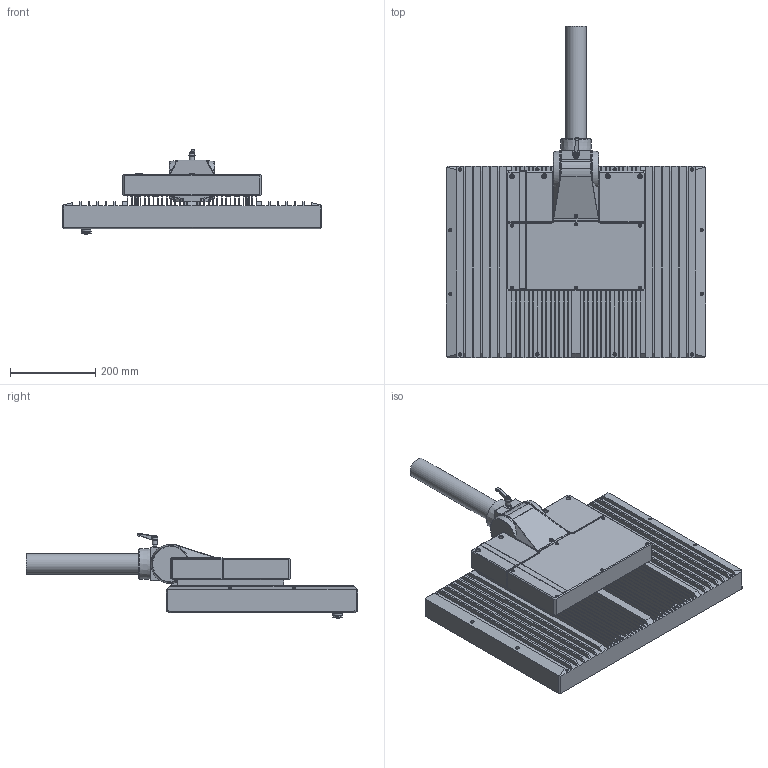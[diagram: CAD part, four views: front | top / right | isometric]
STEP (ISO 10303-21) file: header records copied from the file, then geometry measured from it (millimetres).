
FILE_DESCRIPTION((''),'2;1');
FILE_NAME('X:\0-inventor\0-3d-Teile\PC-Compo\solids\CP72\0-Ausgabe\CP7204-0021-M162.stp','2011-02-11T08:43:24',('ChristianKreuzer'),(''),'Autodesk Inventor 2011','Autodesk Inventor 2011','');
FILE_SCHEMA(('AUTOMOTIVE_DESIGN { 1 0 10303 214 1 1 1 1 }'));
Length unit declared in the file: centimetre
Products named in the file (1): Bauteil1
Bounding box: 610 x 779.14 x 199.48 mm (x, y, z)
Volume: 19296478.7 mm3; surface area: 1739595.7 mm2
Topology: 3 solids, 64 shells, 3484 faces, 8987 edges, 5800 vertices
Faces by surface type: plane 2122, cylinder 785, cone 368, torus 149, bspline 42, sphere 18
Full cylindrical faces by diameter (mm): 1 x20, 1.5 x57, 2.013 x1, 2.256 x2, 2.459 x2, 2.5 x2, 2.8 x2, 3 x8, 3.242 x14, 3.571 x6, 3.621 x4, 4 x31, 4.2 x4, 4.3 x3, 4.4 x6, 4.5 x12, 4.6 x12, 5 x2, 6 x7, 6.2 x4, 6.5 x1, 6.6 x6, 7 x26, 7.5 x4, 7.6 x1, 8 x15, 8.4 x3, 8.5 x2, 9 x6, 10 x4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
Entity records: 109560 total; most frequent: CARTESIAN_POINT 24299, DIRECTION 16675, ORIENTED_EDGE 16480, EDGE_CURVE 8240, AXIS2_PLACEMENT_3D 5895, VERTEX_POINT 5595, VECTOR 4885, LINE 4885
